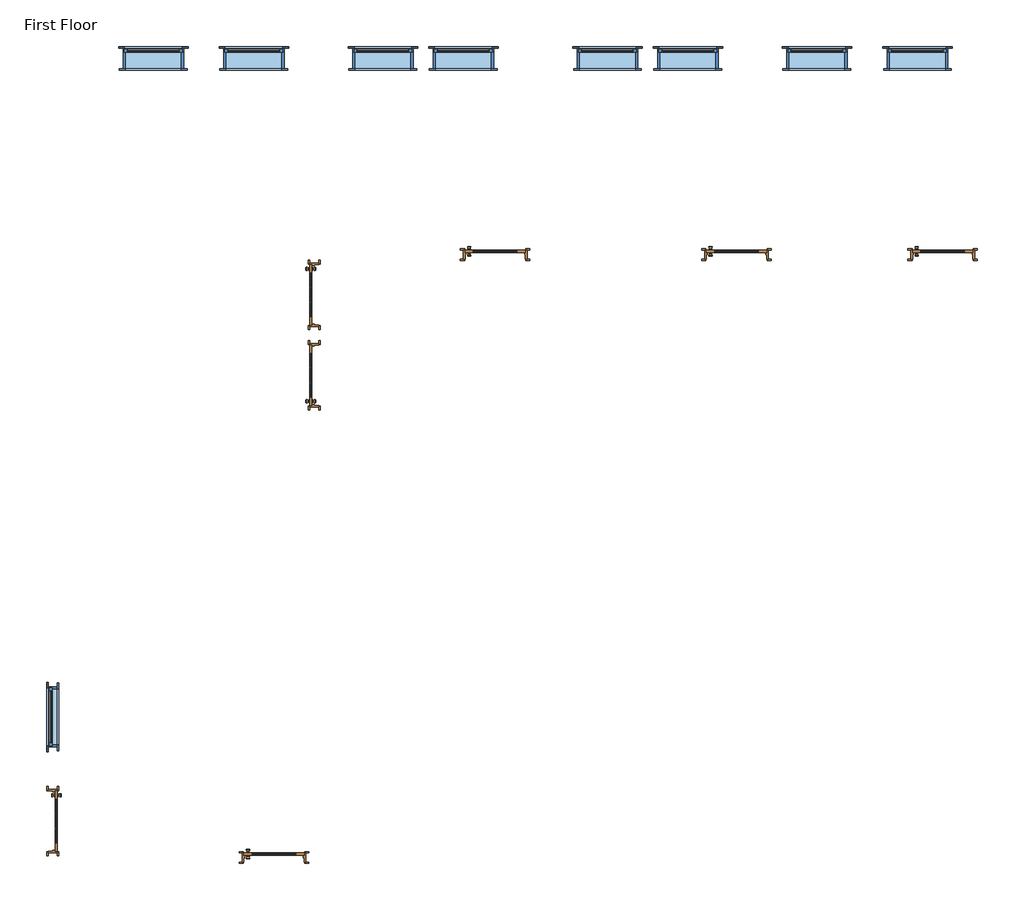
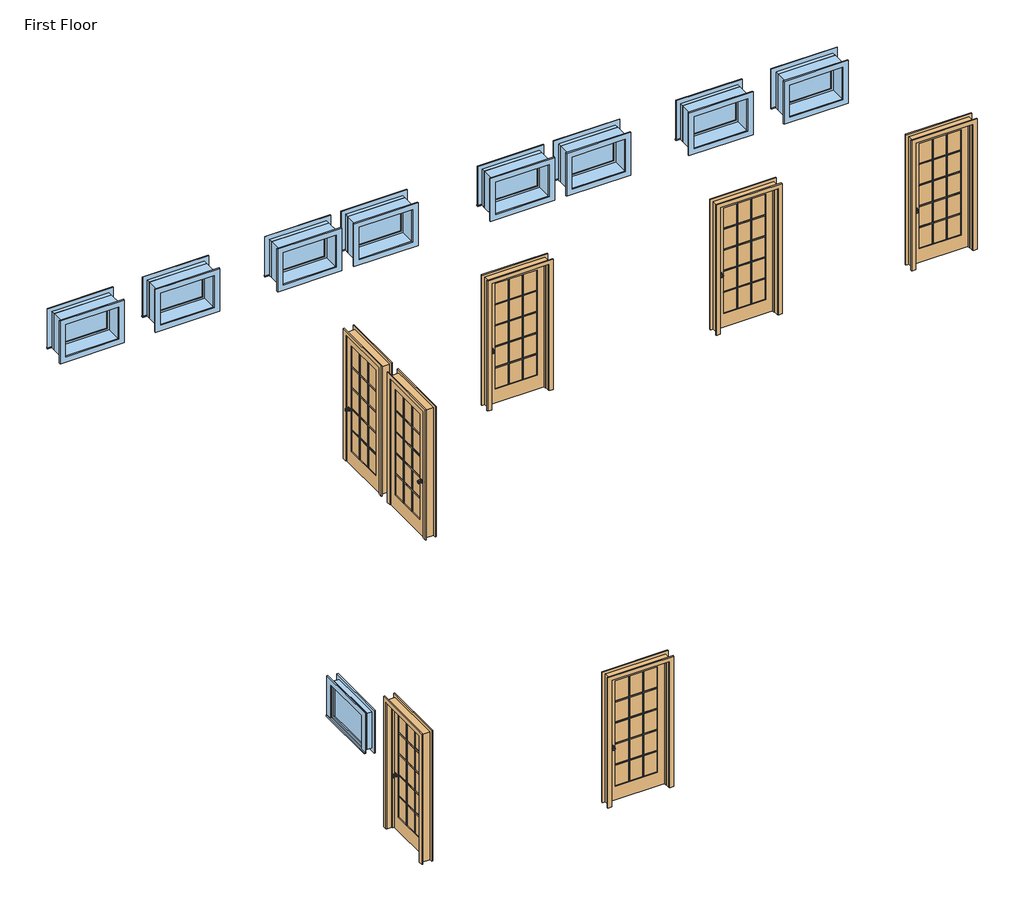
# One storey: 9 windows, 7 doors.
"""IFC4 building model written with IfcOpenShell, lengths in millimetres."""

from ifc_helpers import new_model, si_unit, origin, place, context, project, spatial, transform, mapped, element, save
from components import door_918c180d, door_79dd3e86, window_d9bd7f0d, window_2beb2d92, window_bc8bd959

model = new_model("IFC4")

# Units and contexts
model_context = context("Model", 3, world=origin())
ifc_project = project(units=[si_unit("LENGTHUNIT", "METRE", prefix="MILLI")], contexts=[model_context])

# Site, building, storey
site = spatial("IfcSite", under=ifc_project)
building = spatial("IfcBuilding", under=site)
storey = spatial("IfcBuildingStorey", under=building, Name="First Floor", Elevation=3657.6)

# Doors
placement = place(None, origin())
door_shape = door_918c180d(model_context)
element("IfcDoor", 1, ObjectType="Door-Interior-Single-Full Glass-Wood : 36\" x 84\"", at=placement, inside=storey, context=model_context, shape_type="MappedRepresentation", body=[
    mapped(door_shape, transform((-2168.3269416, -1737.6636161, 3657.6), x_axis=(0.0, -1.0, 0.0), y_axis=(1.0, 0.0, 0.0), z_axis=(0.0, 0.0, 1.0))),
])
element("IfcDoor", 2, ObjectType="Door-Interior-Single-Full Glass-Wood : 36\" x 84\"", at=placement, inside=storey, context=model_context, shape_type="MappedRepresentation", body=[
    mapped(door_shape, transform((1181.2980584, -2286.9386161, 3657.6), x_axis=(1.0, 0.0, 0.0), y_axis=(0.0, 1.0, 0.0), z_axis=(0.0, 0.0, 1.0))),
])
element("IfcDoor", 3, ObjectType="Door-Interior-Single-Full Glass-Wood : 36\" x 84\"", at=placement, inside=storey, context=model_context, shape_type="MappedRepresentation", body=[
    mapped(door_shape, transform((1787.7230584, 5025.0863839, 3657.6), x_axis=(0.0, 1.0, 0.0), y_axis=(-1.0, 0.0, 0.0), z_axis=(0.0, 0.0, 1.0))),
])
element("IfcDoor", 4, ObjectType="Door-Interior-Single-Full Glass-Wood : 36\" x 84\"", at=placement, inside=storey, context=model_context, shape_type="MappedRepresentation", body=[
    mapped(door_shape, transform((4534.0980584, 6857.0613839, 3657.6), x_axis=(1.0, 0.0, 0.0), y_axis=(0.0, 1.0, 0.0), z_axis=(0.0, 0.0, 1.0))),
])
element("IfcDoor", 5, ObjectType="Door-Interior-Single-Full Glass-Wood : 36\" x 84\"", at=placement, inside=storey, context=model_context, shape_type="MappedRepresentation", body=[
    mapped(door_shape, transform((8191.6980584, 6857.0613839, 3657.6), x_axis=(1.0, 0.0, 0.0), y_axis=(0.0, 1.0, 0.0), z_axis=(0.0, 0.0, 1.0))),
])
element("IfcDoor", 6, ObjectType="Door-Interior-Single-Full Glass-Wood : 36\" x 84\"", at=placement, inside=storey, context=model_context, shape_type="MappedRepresentation", body=[
    mapped(door_shape, transform((11317.4855584, 6857.0613839, 3657.6), x_axis=(1.0, 0.0, 0.0), y_axis=(0.0, 1.0, 0.0), z_axis=(0.0, 0.0, 1.0))),
])
door_2_shape = door_79dd3e86(model_context)
element("IfcDoor", 7, ObjectType="Door-Interior-Single-Full Glass-Wood : 36\" x 84\"", at=placement, inside=storey, context=model_context, shape_type="MappedRepresentation", body=[
    mapped(door_2_shape, transform((1787.7230584, 6244.2863839, 3657.6), x_axis=(0.0, -1.0, 0.0), y_axis=(1.0, 0.0, 0.0), z_axis=(0.0, 0.0, 1.0))),
])

# Windows
window_shape = window_d9bd7f0d(model_context)
element("IfcWindow", 8, ObjectType="Awning with Trim : 36\" x 24\"", at=placement, inside=storey, context=model_context, shape_type="MappedRepresentation", body=[
    mapped(window_shape, transform((-2171.5019416, -156.5136161, 3657.6), x_axis=(0.0, 1.0, 0.0), y_axis=(-1.0, 0.0, 0.0), z_axis=(0.0, 0.0, 1.0))),
])
window_2_shape = window_2beb2d92(model_context)
element("IfcWindow", 9, ObjectType="Awning with Trim : 36\" x 24\"", at=placement, inside=storey, context=model_context, shape_type="MappedRepresentation", body=[
    mapped(window_2_shape, transform((876.4980584, 9830.4488839, 3657.6), x_axis=(-1.0, 0.0, 0.0), y_axis=(0.0, -1.0, 0.0), z_axis=(0.0, 0.0, 1.0))),
])
element("IfcWindow", 10, ObjectType="Awning with Trim : 36\" x 24\"", at=placement, inside=storey, context=model_context, shape_type="MappedRepresentation", body=[
    mapped(window_2_shape, transform((-647.5019416, 9830.4488839, 3657.6), x_axis=(-1.0, 0.0, 0.0), y_axis=(0.0, -1.0, 0.0), z_axis=(0.0, 0.0, 1.0))),
])
element("IfcWindow", 11, ObjectType="Awning with Trim : 36\" x 24\"", at=placement, inside=storey, context=model_context, shape_type="MappedRepresentation", body=[
    mapped(window_2_shape, transform((4051.4980584, 9830.4488839, 3657.6), x_axis=(-1.0, 0.0, 0.0), y_axis=(0.0, -1.0, 0.0), z_axis=(0.0, 0.0, 1.0))),
])
element("IfcWindow", 12, ObjectType="Awning with Trim : 36\" x 24\"", at=placement, inside=storey, context=model_context, shape_type="MappedRepresentation", body=[
    mapped(window_2_shape, transform((2832.2980584, 9830.4488839, 3657.6), x_axis=(-1.0, 0.0, 0.0), y_axis=(0.0, -1.0, 0.0), z_axis=(0.0, 0.0, 1.0))),
])
window_3_shape = window_bc8bd959(model_context)
element("IfcWindow", 13, ObjectType="Awning with Trim : 36\" x 24\"", at=placement, inside=storey, context=model_context, shape_type="MappedRepresentation", body=[
    mapped(window_3_shape, transform((9410.8980584, 9830.4488839, 3657.6), x_axis=(1.0, 0.0, 0.0), y_axis=(0.0, 1.0, 0.0), z_axis=(0.0, 0.0, 1.0))),
])
element("IfcWindow", 14, ObjectType="Awning with Trim : 36\" x 24\"", at=placement, inside=storey, context=model_context, shape_type="MappedRepresentation", body=[
    mapped(window_3_shape, transform((10934.8980584, 9830.4488839, 3657.6), x_axis=(1.0, 0.0, 0.0), y_axis=(0.0, 1.0, 0.0), z_axis=(0.0, 0.0, 1.0))),
])
element("IfcWindow", 15, ObjectType="Awning with Trim : 36\" x 24\"", at=placement, inside=storey, context=model_context, shape_type="MappedRepresentation", body=[
    mapped(window_3_shape, transform((6235.8980584, 9830.4488839, 3657.6), x_axis=(1.0, 0.0, 0.0), y_axis=(0.0, 1.0, 0.0), z_axis=(0.0, 0.0, 1.0))),
])
element("IfcWindow", 16, ObjectType="Awning with Trim : 36\" x 24\"", at=placement, inside=storey, context=model_context, shape_type="MappedRepresentation", body=[
    mapped(window_3_shape, transform((7455.0980584, 9830.4488839, 3657.6), x_axis=(1.0, 0.0, 0.0), y_axis=(0.0, 1.0, 0.0), z_axis=(0.0, 0.0, 1.0))),
])

save(model, "model.ifc")
